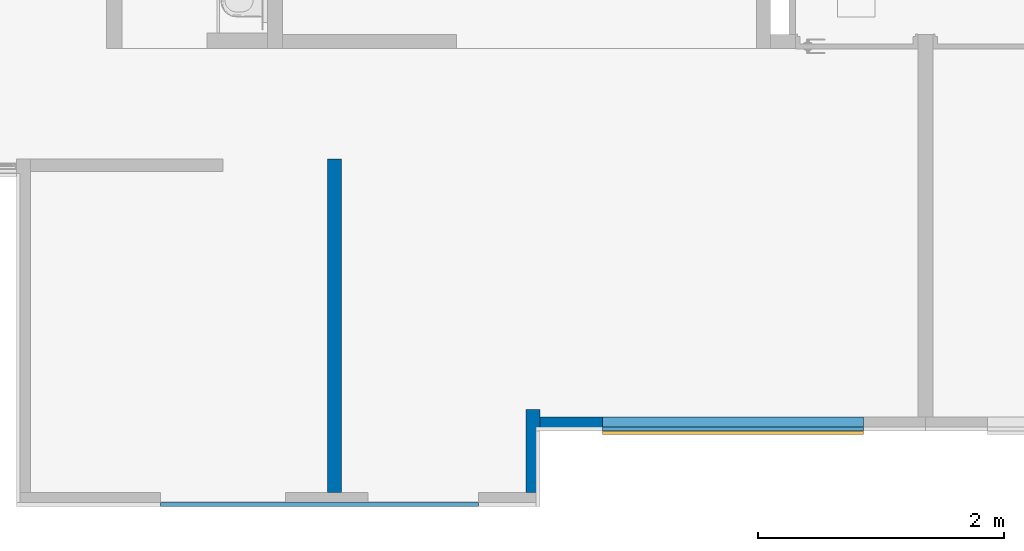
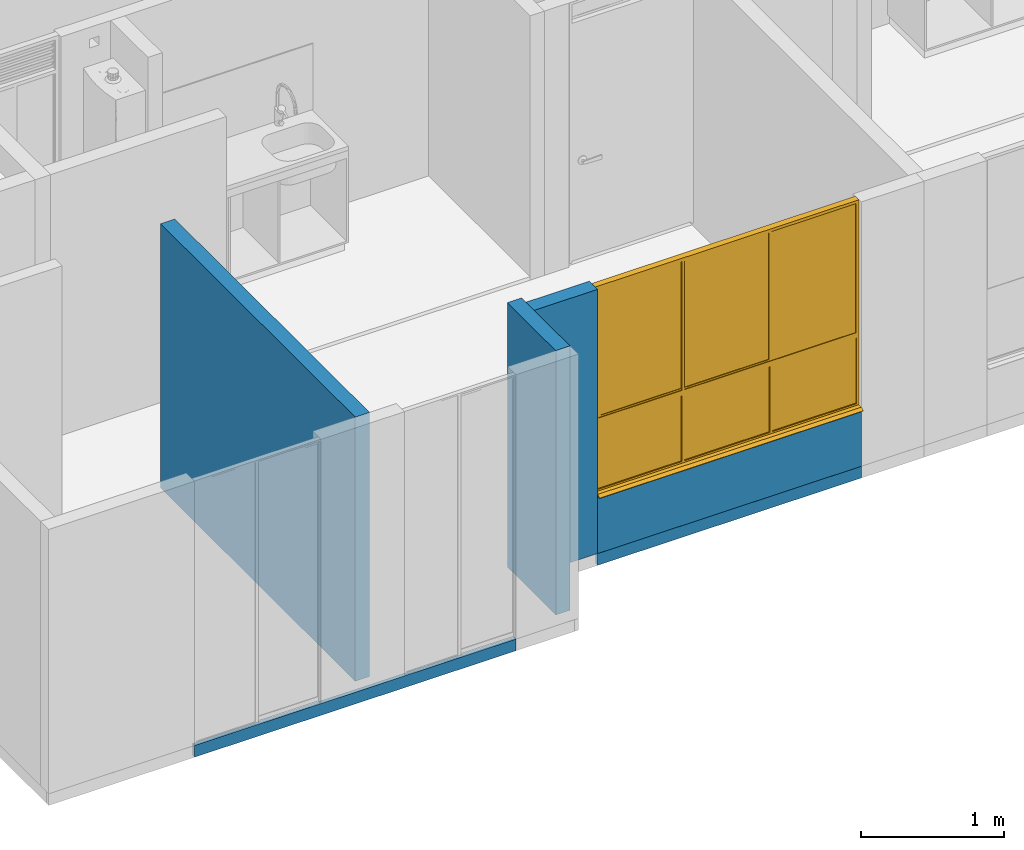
# One storey, part 6 of 48: 6 walls, 1 window, 1 opening.
"""IFC4 building model written with IfcOpenShell, lengths in metres."""

from ifc_helpers import new_model, entity, si_unit, converted_unit, derived_unit, direction, frame, origin, place, context, subcontext, project, spatial, indexed_curve, outline, extrude, polygons, source, transform, mapped, material, constituent, constituent_set, type_object, type_shapes, element, fill, save


model = new_model("IFC4")

# Units and contexts
model_context = context("Model", 3, precision=1e-05, world=origin(), true_north=direction((6.123031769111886e-17, 1.0)))
body_context = subcontext(model_context, "Body", "Model", "MODEL_VIEW")
ifc_project = project(units=[si_unit("LENGTHUNIT", "METRE"), si_unit("AREAUNIT", "SQUARE_METRE"), si_unit("VOLUMEUNIT", "CUBIC_METRE"), converted_unit("PLANEANGLEUNIT", "DEGREE", entity("IfcRatioMeasure", 0.017453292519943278), si_unit("PLANEANGLEUNIT", "RADIAN"), dimensions=[0, 0, 0, 0, 0, 0, 0]), si_unit("MASSUNIT", "GRAM", prefix="KILO"), derived_unit("MASSDENSITYUNIT", [(si_unit("MASSUNIT", "GRAM", prefix="KILO"), 1), (si_unit("LENGTHUNIT", "METRE"), -3)]), derived_unit("IONCONCENTRATIONUNIT", [(si_unit("MASSUNIT", "GRAM", prefix="KILO"), 1), (si_unit("LENGTHUNIT", "METRE"), -3)]), derived_unit("MOMENTOFINERTIAUNIT", [(si_unit("LENGTHUNIT", "METRE"), 4)]), si_unit("TIMEUNIT", "SECOND"), si_unit("FREQUENCYUNIT", "HERTZ"), si_unit("THERMODYNAMICTEMPERATUREUNIT", "DEGREE_CELSIUS"), derived_unit("THERMALTRANSMITTANCEUNIT", [(si_unit("MASSUNIT", "GRAM", prefix="KILO"), 1), (si_unit("THERMODYNAMICTEMPERATUREUNIT", "KELVIN"), -1), (si_unit("TIMEUNIT", "SECOND"), -3)]), derived_unit("THERMALCONDUCTANCEUNIT", [(si_unit("MASSUNIT", "GRAM", prefix="KILO"), 1), (si_unit("THERMODYNAMICTEMPERATUREUNIT", "KELVIN"), -1), (si_unit("TIMEUNIT", "SECOND"), -3), (si_unit("LENGTHUNIT", "METRE"), 1)]), derived_unit("VOLUMETRICFLOWRATEUNIT", [(si_unit("LENGTHUNIT", "METRE"), 3), (si_unit("TIMEUNIT", "SECOND"), -1)]), derived_unit("MASSFLOWRATEUNIT", [(si_unit("MASSUNIT", "GRAM", prefix="KILO"), 1), (si_unit("TIMEUNIT", "SECOND"), -1)]), derived_unit("ROTATIONALFREQUENCYUNIT", [(si_unit("TIMEUNIT", "SECOND"), -1)]), si_unit("ELECTRICCURRENTUNIT", "AMPERE"), si_unit("ELECTRICVOLTAGEUNIT", "VOLT"), si_unit("POWERUNIT", "WATT"), si_unit("FORCEUNIT", "NEWTON", prefix="KILO"), si_unit("ILLUMINANCEUNIT", "LUX"), si_unit("LUMINOUSFLUXUNIT", "LUMEN"), si_unit("LUMINOUSINTENSITYUNIT", "CANDELA"), derived_unit("USERDEFINED", [(si_unit("MASSUNIT", "GRAM", prefix="KILO"), -1), (si_unit("LENGTHUNIT", "METRE"), -2), (si_unit("TIMEUNIT", "SECOND"), 3), (si_unit("LUMINOUSFLUXUNIT", "LUMEN"), 1)]), derived_unit("USERDEFINED", [(si_unit("MASSUNIT", "GRAM", prefix="KILO"), 1), (si_unit("TIMEUNIT", "SECOND"), -3), (si_unit("LENGTHUNIT", "METRE"), 3), (si_unit("ELECTRICCURRENTUNIT", "AMPERE"), -2)]), derived_unit("SOUNDPOWERUNIT", [(si_unit("MASSUNIT", "GRAM", prefix="KILO"), 1), (si_unit("TIMEUNIT", "SECOND"), -3), (si_unit("LENGTHUNIT", "METRE"), 2)]), derived_unit("SOUNDPRESSUREUNIT", [(si_unit("MASSUNIT", "GRAM", prefix="KILO"), 1), (si_unit("LENGTHUNIT", "METRE"), -1), (si_unit("TIMEUNIT", "SECOND"), -2)]), derived_unit("LINEARVELOCITYUNIT", [(si_unit("LENGTHUNIT", "METRE"), 1), (si_unit("TIMEUNIT", "SECOND"), -1)]), si_unit("PRESSUREUNIT", "PASCAL"), derived_unit("USERDEFINED", [(si_unit("MASSUNIT", "GRAM", prefix="KILO"), 1), (si_unit("LENGTHUNIT", "METRE"), -2), (si_unit("TIMEUNIT", "SECOND"), -2)]), derived_unit("LINEARFORCEUNIT", [(si_unit("MASSUNIT", "GRAM", prefix="KILO"), 1), (si_unit("TIMEUNIT", "SECOND"), -2)]), derived_unit("PLANARFORCEUNIT", [(si_unit("MASSUNIT", "GRAM", prefix="KILO"), 1), (si_unit("LENGTHUNIT", "METRE"), -1), (si_unit("TIMEUNIT", "SECOND"), -2)]), derived_unit("SPECIFICHEATCAPACITYUNIT", [(si_unit("THERMODYNAMICTEMPERATUREUNIT", "KELVIN"), -1), (si_unit("LENGTHUNIT", "METRE"), 2), (si_unit("TIMEUNIT", "SECOND"), -2)]), derived_unit("HEATINGVALUEUNIT", [(si_unit("LENGTHUNIT", "METRE"), 2), (si_unit("TIMEUNIT", "SECOND"), -2)]), derived_unit("VAPORPERMEABILITYUNIT", [(si_unit("LENGTHUNIT", "METRE"), -1), (si_unit("TIMEUNIT", "SECOND"), 1)]), derived_unit("DYNAMICVISCOSITYUNIT", [(si_unit("MASSUNIT", "GRAM", prefix="KILO"), 1), (si_unit("TIMEUNIT", "SECOND"), -1), (si_unit("LENGTHUNIT", "METRE"), -1)]), derived_unit("THERMALEXPANSIONCOEFFICIENTUNIT", [(si_unit("THERMODYNAMICTEMPERATUREUNIT", "KELVIN"), -1)]), derived_unit("MODULUSOFELASTICITYUNIT", [(si_unit("MASSUNIT", "GRAM", prefix="KILO"), 1), (si_unit("LENGTHUNIT", "METRE"), -1), (si_unit("TIMEUNIT", "SECOND"), -2)]), derived_unit("ISOTHERMALMOISTURECAPACITYUNIT", [(si_unit("LENGTHUNIT", "METRE"), 3), (si_unit("MASSUNIT", "GRAM", prefix="KILO"), -1)]), derived_unit("MOISTUREDIFFUSIVITYUNIT", [(si_unit("TIMEUNIT", "SECOND"), -1), (si_unit("LENGTHUNIT", "METRE"), 2)])], contexts=[model_context])

# Site, building, storey
site_placement = place(None, origin())
site = spatial("IfcSite", under=ifc_project, at=site_placement, Name="Default", CompositionType="ELEMENT")
building_placement = place(site_placement, origin())
building = spatial("IfcBuilding", under=site, at=building_placement, CompositionType="ELEMENT")
storey_placement = place(building_placement, frame((0.0, 0.0, 9.40000000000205)))
storey = spatial("IfcBuildingStorey", under=building, at=storey_placement, Name="Nivel 5", CompositionType="ELEMENT", Elevation=9.40000000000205)

# Wall
ifc_material_1 = material(Name="Ladrillo claro (Aire)", Category="Materials")
wall_type_1 = type_object("IfcWallType", Name="Basic Wall:B2010 - 0.115m - Muro exterior en mampostería - Ladrillo", PredefinedType="STANDARD")
wall_1_placement = place(storey_placement, frame((6.124999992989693, -12.755000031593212, 0.0), z_axis=(0.0, 0.0, 1.0), x_axis=(0.0, 1.0, 0.0)))
element("IfcWall", 1, at=wall_1_placement, inside=storey, type_object=wall_type_1, material=ifc_material_1, Name="Basic Wall:B2010 - 0.115m - Muro exterior en mampostería - Ladrillo", ObjectType="Basic Wall:B2010 - 0.115m - Muro exterior en mampostería - Ladrillo", PredefinedType="NOTDEFINED", context=body_context, shape_type="SweptSolid", body=[
    extrude(outline(indexed_curve([(0.67491804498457, 0.05749999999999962), (1.1815459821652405e-16, 0.057499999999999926), (-1.1815459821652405e-16, -0.057499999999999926), (0.6749180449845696, -0.057500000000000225), (0.67491804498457, 0.05749999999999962)], self_intersect=False)), origin(), (0.0, 0.0, 1.0), 2.25000000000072),
])

# Wall, opening, window
wall_2_placement = place(storey_placement, frame((6.692499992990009, -12.197500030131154, 0.0)))
wall_2 = element("IfcWall", 2, at=wall_2_placement, inside=storey, type_object=wall_type_1, material=ifc_material_1, Name="Basic Wall:B2010 - 0.115m - Muro exterior en mampostería - Ladrillo", ObjectType="Basic Wall:B2010 - 0.115m - Muro exterior en mampostería - Ladrillo", PredefinedType="NOTDEFINED", context=body_context, shape_type="Tessellation", body=[
    polygons([(1.7081032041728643e-15, -0.057499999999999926, -1.0828671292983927e-15), (2.1249999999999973, -0.057499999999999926, -1.0828671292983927e-15), (2.1249999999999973, -0.057499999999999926, 0.5000000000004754), (1.7081032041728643e-15, -0.057499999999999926, 0.5000000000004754), (2.1249999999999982, 0.057499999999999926, -1.0828671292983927e-15), (5.438200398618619e-16, 0.057499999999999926, -1.0828671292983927e-15), (5.438200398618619e-16, 0.057499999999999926, 0.5000000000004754), (2.1249999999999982, 0.057499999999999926, 0.5000000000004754)], [[[1, 2, 3, 4]], [[5, 6, 7, 8]], [[2, 1, 6, 5]], [[2, 5, 8, 3]], [[6, 1, 4, 7]], [[4, 3, 8, 7]]], closed=True),
])
opening_placement = place(wall_2_placement, frame((2.125000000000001, 0.05749999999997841, 0.5000000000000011)))
opening = element("IfcOpeningElement", 3, at=opening_placement, cuts=wall_2, Name="B2020 - 6c Ventana corrediza - Aluminio + Vidrio:B2020 -2.13m x 1.750m - Ventana corrediza 2C - Aluminio + Vidrio:1", PredefinedType="OPENING", context=body_context, shape_type="SweptSolid", body=[
    extrude(outline(indexed_curve([(0.0, -4.087553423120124e-33), (1.7499999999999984, -4.087553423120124e-33), (1.7499999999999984, 2.125), (0.0, 2.125), (0.0, -4.087553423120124e-33)], self_intersect=False)), frame((0.0, 0.0, 0.0), z_axis=(0.0, -1.0, 0.0), x_axis=(0.0, 0.0, 1.0)), (0.0, 0.0, 1.0), 0.115),
])
ifc_material_2 = material(Name="Aluminio", Category="Materials")
ifc_constituent_1 = constituent(ifc_material_2, Name="Aluminio", Category="Materials")
ifc_material_3 = material(Name="Vidrio", Category="Materials")
ifc_constituent_2 = constituent(ifc_material_3, Name="Vidrio", Category="Materials")
ifc_material_4 = material(Name="Alfajía en aluminio", Category="Materials")
ifc_constituent_3 = constituent(ifc_material_4, Name="Alfajía en aluminio", Category="Materials")
ifc_constituent_set_1 = constituent_set(constituents=[ifc_constituent_1, ifc_constituent_2, ifc_constituent_3])
ifc_constituent_4 = constituent(ifc_material_2, Name="Aluminio", Category="Materials")
ifc_constituent_5 = constituent(ifc_material_3, Name="Vidrio", Category="Materials")
ifc_constituent_6 = constituent(ifc_material_4, Name="Alfajía en aluminio", Category="Materials")
ifc_constituent_set_2 = constituent_set(constituents=[ifc_constituent_4, ifc_constituent_5, ifc_constituent_6])
window_type = type_object("IfcWindowType", Name="B2020 - 6c Ventana corrediza - Aluminio + Vidrio:B2020 -2.13m x 1.750m - Ventana corrediza 2C - Aluminio + Vidrio", PartitioningType="NOTDEFINED", PredefinedType="WINDOW", material=ifc_constituent_set_2)
shared_shape = source(origin(), body_context, "Body", "Tessellation", [
    polygons([(0.024999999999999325, 0.03749999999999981, 1.7249999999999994), (0.025000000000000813, 0.032499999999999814, 1.7249999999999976), (0.025000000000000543, 0.032499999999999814, 0.6249999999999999), (0.024999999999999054, 0.03749999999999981, 0.6249999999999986), (2.1249999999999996, 0.03249999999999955, 0.5999999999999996), (2.1249999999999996, 0.03249999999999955, 1.749999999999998), (5.414335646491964e-16, 0.032499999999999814, 1.749999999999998), (2.707167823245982e-16, 0.032499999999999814, 0.5999999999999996), (2.099999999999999, 0.03249999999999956, 0.6249999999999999), (2.099999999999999, 0.032499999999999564, 1.7249999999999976), (2.1000000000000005, 0.03749999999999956, 0.6249999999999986), (2.1000000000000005, 0.03749999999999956, 1.7249999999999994), (2.1050000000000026, 0.03749999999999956, 0.6199999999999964), (0.01999999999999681, 0.03749999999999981, 0.6199999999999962), (0.01999999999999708, 0.03749999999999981, 1.7300000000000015), (2.1050000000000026, 0.03749999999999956, 1.7300000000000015), (0.01999999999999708, 0.05499999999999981, 1.7300000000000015), (0.01999999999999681, 0.05499999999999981, 0.6199999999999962), (2.1050000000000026, 0.05499999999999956, 0.6199999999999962), (2.1050000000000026, 0.05499999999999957, 1.7300000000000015), (2.099999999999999, 0.05499999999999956, 0.6249999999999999), (0.025000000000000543, 0.05499999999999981, 0.6249999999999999), (0.025000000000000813, 0.05499999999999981, 1.7249999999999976), (2.099999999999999, 0.05499999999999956, 1.7249999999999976), (0.025000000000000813, 0.05999999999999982, 1.7249999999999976), (0.025000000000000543, 0.05999999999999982, 0.6249999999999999), (2.099999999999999, 0.059999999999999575, 0.6249999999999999), (2.099999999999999, 0.059999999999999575, 1.7249999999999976), (2.119999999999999, 0.05999999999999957, 0.6049999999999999), (0.005000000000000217, 0.05999999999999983, 0.6049999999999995), (0.0050000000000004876, 0.05999999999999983, 1.744999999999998), (2.119999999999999, 0.05999999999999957, 1.744999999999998), (0.0050000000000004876, 0.07749999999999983, 1.744999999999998), (0.005000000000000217, 0.07749999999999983, 0.6049999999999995), (2.119999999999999, 0.07749999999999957, 0.6049999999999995), (2.119999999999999, 0.07749999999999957, 1.744999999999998), (2.099999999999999, 0.07749999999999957, 0.6249999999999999), (0.025000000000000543, 0.07749999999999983, 0.6249999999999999), (0.025000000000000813, 0.07749999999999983, 1.7249999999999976), (2.099999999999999, 0.07749999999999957, 1.7249999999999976), (0.025000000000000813, 0.08249999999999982, 1.7249999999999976), (0.025000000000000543, 0.08249999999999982, 0.6249999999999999), (2.099999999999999, 0.08249999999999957, 0.6249999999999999), (2.099999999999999, 0.08249999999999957, 1.7249999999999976), (2.1249999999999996, 0.08249999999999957, 0.5999999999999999), (2.707167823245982e-16, 0.08249999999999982, 0.5999999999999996), (5.414335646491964e-16, 0.08249999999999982, 1.749999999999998), (2.1249999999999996, 0.08249999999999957, 1.749999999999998)], [[[1, 2, 3, 4]], [[5, 6, 7, 8], [9, 3, 2, 10]], [[4, 3, 9, 11]], [[13, 14, 15, 16], [11, 12, 1, 4]], [[17, 15, 14, 18]], [[18, 14, 13, 19]], [[19, 20, 17, 18], [21, 22, 23, 24]], [[25, 23, 22, 26]], [[26, 22, 21, 27]], [[29, 30, 31, 32], [27, 28, 25, 26]], [[33, 31, 30, 34]], [[34, 30, 29, 35]], [[35, 36, 33, 34], [37, 38, 39, 40]], [[41, 39, 38, 42]], [[42, 38, 37, 43]], [[45, 46, 47, 48], [43, 44, 41, 42]], [[7, 47, 46, 8]], [[8, 46, 45, 5]], [[11, 9, 10, 12]], [[19, 13, 16, 20]], [[27, 21, 24, 28]], [[35, 29, 32, 36]], [[43, 37, 40, 44]], [[5, 45, 48, 6]], [[12, 10, 2, 1]], [[20, 16, 15, 17]], [[28, 24, 23, 25]], [[36, 32, 31, 33]], [[44, 40, 39, 41]], [[6, 48, 47, 7]]], closed=True),
    polygons([(1.4266666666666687, 0.08249999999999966, 0.6249999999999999), (1.4266666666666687, 0.05999999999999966, 0.6249999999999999), (1.406666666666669, 0.05999999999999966, 0.6249999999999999), (1.406666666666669, 0.08249999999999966, 0.6249999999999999), (1.4266666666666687, 0.08249999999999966, 1.7249999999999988), (1.4266666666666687, 0.05999999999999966, 1.7249999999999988), (1.406666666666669, 0.05999999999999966, 1.7249999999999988), (1.406666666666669, 0.08249999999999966, 1.7249999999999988)], [[[1, 2, 3, 4]], [[5, 6, 2, 1]], [[6, 7, 3, 2]], [[7, 8, 4, 3]], [[8, 5, 1, 4]], [[5, 8, 7, 6]]], closed=True),
    polygons([(0.7058333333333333, 0.06674999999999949, 1.7299999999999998), (0.7058333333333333, 0.06674999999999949, 0.6174999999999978), (2.099999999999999, 0.06674999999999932, 0.6174999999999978), (2.099999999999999, 0.06674999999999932, 1.7299999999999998), (0.7058333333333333, 0.0707499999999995, 1.7299999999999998), (0.7058333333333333, 0.0707499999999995, 0.6174999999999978), (2.099999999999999, 0.07074999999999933, 0.6174999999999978), (2.099999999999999, 0.07074999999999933, 1.7299999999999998)], [[[1, 2, 3, 4]], [[2, 1, 5, 6]], [[3, 2, 6, 7]], [[4, 3, 7, 8]], [[5, 8, 7, 6]], [[1, 4, 8, 5]]], closed=True),
    polygons([(0.7058333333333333, 0.07074999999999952, 0.6225000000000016), (0.7058333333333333, 0.06674999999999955, 0.6225000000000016), (2.095000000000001, 0.06674999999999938, 0.6225000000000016), (2.095000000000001, 0.07074999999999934, 0.6225000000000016), (2.0950000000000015, 0.06674999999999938, 1.730000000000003), (2.0950000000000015, 0.07074999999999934, 1.730000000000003), (0.7058333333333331, 0.06674999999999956, 1.730000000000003), (2.0800000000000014, 0.06674999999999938, 1.7150000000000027), (0.7208333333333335, 0.06674999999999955, 1.7150000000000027), (0.7208333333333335, 0.06674999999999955, 0.637500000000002), (2.080000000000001, 0.06674999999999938, 0.637500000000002), (2.080000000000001, 0.07074999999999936, 0.6375000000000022), (0.7208333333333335, 0.07074999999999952, 0.637500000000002), (0.7208333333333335, 0.07074999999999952, 1.7150000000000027), (2.0800000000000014, 0.07074999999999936, 1.7150000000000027), (0.7058333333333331, 0.07074999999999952, 1.730000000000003), (0.7208333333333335, 0.07549999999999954, 0.637500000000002), (2.080000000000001, 0.07549999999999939, 0.637500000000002), (2.0800000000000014, 0.07549999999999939, 1.7150000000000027), (2.1000000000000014, 0.07549999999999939, 0.6175000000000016), (0.7008333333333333, 0.07549999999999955, 0.6175000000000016), (0.7008333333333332, 0.07549999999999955, 1.735000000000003), (2.1000000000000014, 0.07549999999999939, 1.735000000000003), (0.7208333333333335, 0.07549999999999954, 1.7150000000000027), (0.7008333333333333, 0.06199999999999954, 0.6175000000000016), (2.1000000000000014, 0.061999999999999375, 0.6175000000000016), (2.1000000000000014, 0.061999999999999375, 1.735000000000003), (2.080000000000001, 0.06199999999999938, 0.6375000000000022), (0.7208333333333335, 0.06199999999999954, 0.637500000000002), (0.7208333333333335, 0.06199999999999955, 1.7150000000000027), (2.0800000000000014, 0.06199999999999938, 1.7150000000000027), (0.7008333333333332, 0.06199999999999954, 1.735000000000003)], [[[1, 2, 3, 4]], [[4, 3, 5, 6]], [[3, 2, 7, 5], [8, 9, 10, 11]], [[6, 16, 1, 4], [12, 13, 14, 15]], [[17, 13, 12, 18]], [[18, 12, 15, 19]], [[20, 21, 22, 23], [19, 24, 17, 18]], [[25, 21, 20, 26]], [[26, 20, 23, 27]], [[27, 32, 25, 26], [28, 29, 30, 31]], [[10, 29, 28, 11]], [[11, 28, 31, 8]], [[16, 7, 2, 1]], [[24, 14, 13, 17]], [[32, 22, 21, 25]], [[9, 30, 29, 10]], [[6, 5, 7, 16]], [[19, 15, 14, 24]], [[27, 23, 22, 32]], [[8, 31, 30, 9]]], closed=True),
    polygons([(0.025000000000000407, 0.04424999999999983, 1.7299999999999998), (0.025000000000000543, 0.04424999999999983, 0.6174999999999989), (0.713333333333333, 0.04424999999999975, 0.6174999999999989), (0.7133333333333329, 0.04424999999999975, 1.7299999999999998), (0.025000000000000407, 0.04824999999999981, 1.7299999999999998), (0.025000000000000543, 0.04824999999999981, 0.6174999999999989), (0.713333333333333, 0.048249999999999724, 0.6174999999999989), (0.7133333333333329, 0.048249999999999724, 1.7299999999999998)], [[[1, 2, 3, 4]], [[2, 1, 5, 6]], [[3, 2, 6, 7]], [[4, 3, 7, 8]], [[5, 8, 7, 6]], [[1, 4, 8, 5]]], closed=True),
    polygons([(0.025000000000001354, 0.04824999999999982, 0.6224999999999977), (0.025000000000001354, 0.04424999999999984, 0.6224999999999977), (0.713333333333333, 0.044249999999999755, 0.6224999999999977), (0.713333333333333, 0.04824999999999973, 0.6224999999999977), (0.713333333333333, 0.044249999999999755, 1.729999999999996), (0.713333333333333, 0.04824999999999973, 1.729999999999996), (0.025000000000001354, 0.04424999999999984, 1.729999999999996), (0.6983333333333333, 0.044249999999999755, 1.714999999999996), (0.040000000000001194, 0.04424999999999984, 1.714999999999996), (0.040000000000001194, 0.04424999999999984, 0.6374999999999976), (0.6983333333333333, 0.044249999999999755, 0.6374999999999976), (0.6983333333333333, 0.04824999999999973, 0.6374999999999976), (0.040000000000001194, 0.04824999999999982, 0.6374999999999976), (0.040000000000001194, 0.04824999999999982, 1.714999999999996), (0.6983333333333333, 0.04824999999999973, 1.714999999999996), (0.025000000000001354, 0.04824999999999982, 1.729999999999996), (0.040000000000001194, 0.052999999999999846, 0.6374999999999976), (0.6983333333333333, 0.05299999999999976, 0.6374999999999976), (0.6983333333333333, 0.05299999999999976, 1.714999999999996), (0.7183333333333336, 0.052999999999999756, 0.6174999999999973), (0.020000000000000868, 0.052999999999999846, 0.6174999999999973), (0.020000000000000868, 0.052999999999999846, 1.7349999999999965), (0.7183333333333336, 0.05299999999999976, 1.7349999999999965), (0.040000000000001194, 0.052999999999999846, 1.714999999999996), (0.020000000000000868, 0.03949999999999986, 0.6174999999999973), (0.7183333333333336, 0.03949999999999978, 0.6174999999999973), (0.7183333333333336, 0.03949999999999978, 1.7349999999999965), (0.6983333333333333, 0.039499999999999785, 0.6374999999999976), (0.040000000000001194, 0.039499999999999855, 0.6374999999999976), (0.040000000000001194, 0.039499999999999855, 1.714999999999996), (0.6983333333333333, 0.03949999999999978, 1.714999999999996), (0.020000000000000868, 0.03949999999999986, 1.7349999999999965)], [[[1, 2, 3, 4]], [[4, 3, 5, 6]], [[3, 2, 7, 5], [8, 9, 10, 11]], [[6, 16, 1, 4], [12, 13, 14, 15]], [[17, 13, 12, 18]], [[18, 12, 15, 19]], [[20, 21, 22, 23], [19, 24, 17, 18]], [[25, 21, 20, 26]], [[26, 20, 23, 27]], [[27, 32, 25, 26], [28, 29, 30, 31]], [[10, 29, 28, 11]], [[11, 28, 31, 8]], [[16, 7, 2, 1]], [[24, 14, 13, 17]], [[32, 22, 21, 25]], [[9, 30, 29, 10]], [[6, 5, 7, 16]], [[19, 15, 14, 24]], [[27, 23, 22, 32]], [[8, 31, 30, 9]]], closed=True),
    polygons([(2.1049999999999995, 0.04424999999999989, 1.7299999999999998), (0.025000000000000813, 0.04424999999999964, 1.7299999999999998), (0.025000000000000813, 0.04424999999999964, 0.6174999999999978), (2.1049999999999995, 0.04424999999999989, 0.6174999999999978), (0.025000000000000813, 0.04824999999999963, 1.7299999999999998), (0.025000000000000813, 0.04824999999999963, 0.6174999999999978), (2.1049999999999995, 0.04824999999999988, 0.6174999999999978), (2.1049999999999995, 0.04824999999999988, 1.7299999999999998)], [[[1, 2, 3, 4]], [[3, 2, 5, 6]], [[4, 3, 6, 7]], [[1, 4, 7, 8]], [[8, 7, 6, 5]], [[2, 1, 8, 5]]], closed=True),
    polygons([(0.020000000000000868, 0.06674999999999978, 1.7299999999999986), (0.020000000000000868, 0.06674999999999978, 0.6174999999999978), (2.1049999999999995, 0.06674999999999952, 0.6174999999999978), (2.104999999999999, 0.06674999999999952, 1.7299999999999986), (0.020000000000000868, 0.07074999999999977, 1.7299999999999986), (0.020000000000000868, 0.07074999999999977, 0.6174999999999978), (2.1049999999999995, 0.07074999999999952, 0.6174999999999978), (2.104999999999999, 0.07074999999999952, 1.7299999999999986)], [[[1, 2, 3, 4]], [[2, 1, 5, 6]], [[3, 2, 6, 7]], [[4, 3, 7, 8]], [[5, 8, 7, 6]], [[1, 4, 8, 5]]], closed=True),
    polygons([(0.019999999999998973, 0.06813901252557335, 0.5800000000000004), (0.01999999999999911, 0.06813901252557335, 0.019999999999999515), (2.1050000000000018, 0.06813901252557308, 0.019999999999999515), (2.1050000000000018, 0.06813901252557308, 0.5800000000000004), (0.019999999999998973, 0.07213901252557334, 0.5800000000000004), (2.1050000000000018, 0.07213901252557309, 0.5800000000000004), (2.1050000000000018, 0.07213901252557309, 0.019999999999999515), (0.01999999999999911, 0.07213901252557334, 0.019999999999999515)], [[[1, 2, 3, 4]], [[5, 6, 7, 8]], [[2, 1, 5, 8]], [[3, 2, 8, 7]], [[4, 3, 7, 6]], [[1, 4, 6, 5]]], closed=True),
    polygons([(1.4266666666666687, 0.08250000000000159, 0.5799999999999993), (1.406666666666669, 0.08250000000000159, 0.5799999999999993), (1.406666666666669, 0.03250000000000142, 0.5799999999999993), (1.4266666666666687, 0.03250000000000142, 0.5799999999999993), (1.4266666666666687, 0.08250000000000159, 0.019999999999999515), (1.4266666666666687, 0.03250000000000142, 0.019999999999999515), (1.406666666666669, 0.03250000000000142, 0.019999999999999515), (1.406666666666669, 0.08250000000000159, 0.019999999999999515)], [[[1, 2, 3, 4]], [[5, 6, 7, 8]], [[2, 1, 5, 8]], [[3, 2, 8, 7]], [[4, 3, 7, 6]], [[1, 4, 6, 5]]], closed=True),
    polygons([(4.060751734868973e-16, 0.08249999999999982, 4.060751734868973e-16), (2.707167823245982e-16, 0.08249999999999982, 0.5999999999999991), (2.1249999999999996, 0.08249999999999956, 0.5999999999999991), (2.125, 0.08249999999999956, 2.707167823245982e-16), (0.718333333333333, 0.08250000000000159, 0.5799999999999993), (0.718333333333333, 0.08250000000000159, 0.01999999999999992), (2.105, 0.0825000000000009, 0.020000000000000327), (2.105, 0.0825000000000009, 0.5799999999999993), (0.6983333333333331, 0.08250000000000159, 0.01999999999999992), (0.6983333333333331, 0.08250000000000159, 0.5799999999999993), (0.020000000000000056, 0.08250000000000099, 0.5799999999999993), (0.020000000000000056, 0.08250000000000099, 0.020000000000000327), (0.6983333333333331, 0.03250000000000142, 0.01999999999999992), (0.6983333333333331, 0.03250000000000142, 0.5799999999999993), (0.02000000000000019, 0.032499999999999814, 0.020000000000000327), (0.020000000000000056, 0.032499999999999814, 0.5799999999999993), (4.060751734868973e-16, 0.03250000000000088, 0.5999999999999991), (4.060751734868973e-16, 0.03250000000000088, 4.060751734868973e-16), (2.125, 0.0325000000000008, 4.060751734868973e-16), (2.125, 0.0325000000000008, 0.5999999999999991), (0.7183333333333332, 0.03250000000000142, 0.01999999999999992), (0.718333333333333, 0.03250000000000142, 0.5799999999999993), (2.105, 0.03249999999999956, 0.5799999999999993), (2.105, 0.03249999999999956, 0.020000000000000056)], [[[1, 2, 3, 4], [5, 6, 7, 8], [9, 10, 11, 12]], [[10, 9, 13, 14]], [[17, 18, 19, 20], [14, 13, 15, 16], [21, 22, 23, 24]], [[6, 5, 22, 21]], [[11, 16, 15, 12]], [[17, 2, 1, 18]], [[12, 15, 13, 9]], [[18, 1, 4, 19]], [[7, 24, 23, 8]], [[19, 4, 3, 20]], [[8, 23, 22, 5]], [[2, 17, 20, 3]], [[16, 11, 10, 14]], [[24, 7, 6, 21]]], closed=True),
    polygons([(0.7183333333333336, 0.07213901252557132, 0.5849999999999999), (0.7183333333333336, 0.06813901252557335, 0.5849999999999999), (2.1050000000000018, 0.06813901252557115, 0.5849999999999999), (2.1050000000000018, 0.07213901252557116, 0.5849999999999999), (0.7183333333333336, 0.07213901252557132, 0.019999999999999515), (2.1050000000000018, 0.07213901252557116, 0.019999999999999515), (2.1050000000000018, 0.06813901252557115, 0.019999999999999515), (0.7183333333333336, 0.06813901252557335, 0.019999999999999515)], [[[1, 2, 3, 4]], [[5, 6, 7, 8]], [[1, 4, 6, 5]], [[4, 3, 7, 6]], [[3, 2, 8, 7]], [[2, 1, 5, 8]]], closed=True),
    polygons([(-8.121503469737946e-16, 0.11499999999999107, -4.060751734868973e-16), (-8.121503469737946e-16, 0.08249999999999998, -4.060751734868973e-16), (-8.121503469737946e-16, 0.08249999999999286, 0.0049999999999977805), (-8.121503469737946e-16, 0.11633974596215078, 0.0049999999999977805), (-6.767919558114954e-16, 0.14348076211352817, -0.010669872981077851), (-6.767919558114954e-16, 0.1409807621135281, -0.015000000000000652), (2.124999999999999, 0.11499999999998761, -4.060751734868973e-16), (2.124999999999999, 0.14098076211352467, -0.015000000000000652), (2.124999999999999, 0.1434807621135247, -0.010669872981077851), (2.124999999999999, 0.11633974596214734, 0.0049999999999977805), (2.124999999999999, 0.0824999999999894, 0.0049999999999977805), (2.124999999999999, 0.08249999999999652, -4.060751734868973e-16)], [[[1, 2, 3, 4, 5, 6]], [[7, 8, 9, 10, 11, 12]], [[2, 1, 7, 12]], [[3, 2, 12, 11]], [[4, 3, 11, 10]], [[5, 4, 10, 9]], [[6, 5, 9, 8]], [[1, 6, 8, 7]]], closed=True),
    polygons([(0.6983333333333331, 0.07213901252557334, 0.5849999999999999), (0.01999999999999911, 0.07213901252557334, 0.5849999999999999), (0.019999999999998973, 0.06813901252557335, 0.5849999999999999), (0.6983333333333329, 0.06813901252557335, 0.5849999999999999), (0.6983333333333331, 0.07213901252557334, 0.019999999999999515), (0.6983333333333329, 0.06813901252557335, 0.019999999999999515), (0.019999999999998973, 0.06813901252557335, 0.019999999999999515), (0.01999999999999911, 0.07213901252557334, 0.019999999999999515)], [[[1, 2, 3, 4]], [[5, 6, 7, 8]], [[2, 1, 5, 8]], [[3, 2, 8, 7]], [[4, 3, 7, 6]], [[1, 4, 6, 5]]], closed=True),
])
type_shapes(window_type, [shared_shape])
window_placement = place(opening_placement, frame((0.0, 0.0, 0.0), z_axis=(0.0, 0.0, 1.0), x_axis=(-1.0, 0.0, 0.0)))
window = element("IfcWindow", 4, at=window_placement, inside=storey, type_object=window_type, material=ifc_constituent_set_1, Name="B2020 - 6c Ventana corrediza - Aluminio + Vidrio:B2020 -2.13m x 1.750m - Ventana corrediza 2C - Aluminio + Vidrio", ObjectType="B2020 - 6c Ventana corrediza - Aluminio + Vidrio:B2020 -2.13m x 1.750m - Ventana corrediza 2C - Aluminio + Vidrio", OverallHeight=1.7499999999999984, OverallWidth=2.125, PartitioningType="NOTDEFINED", PredefinedType="WINDOW", context=body_context, shape_type="MappedRepresentation", body=[
    mapped(shared_shape, transform((0.0, 0.0, 0.0), scale=1.0)),
])
fill(opening, window)

# Walls
ifc_material_5 = material(Name="LADRILLO CLARO", Category="Materials")
wall_type_2 = type_object("IfcWallType", Name="Basic Wall:B2010 - 0.115m - ME mampostería no estructural - Ladrillo", PredefinedType="STANDARD")
wall_3_placement = place(storey_placement, frame((6.182499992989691, -12.197500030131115, 0.0)))
element("IfcWall", 5, at=wall_3_placement, inside=storey, type_object=wall_type_2, material=ifc_material_5, Name="Basic Wall:B2010 - 0.115m - ME mampostería no estructural - Ladrillo", ObjectType="Basic Wall:B2010 - 0.115m - ME mampostería no estructural - Ladrillo", PredefinedType="NOTDEFINED", context=body_context, shape_type="SweptSolid", body=[
    extrude(outline(indexed_curve([(0.51000000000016, 0.05750000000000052), (-2.061268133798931e-16, 0.057499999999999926), (2.061268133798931e-16, -0.057499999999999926), (0.5100000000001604, -0.05749999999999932), (0.51000000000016, 0.05750000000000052)], self_intersect=False)), origin(), (0.0, 0.0, 1.0), 2.2500000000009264),
])
wall_type_3 = type_object("IfcWallType", Name="Basic Wall:B2010 - 0.115m - Muro interior en mampostería - Ladrillo", PredefinedType="STANDARD")
wall_4_placement = place(storey_placement, frame((4.509999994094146, -12.755000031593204, 0.0), z_axis=(0.0, 0.0, 1.0), x_axis=(0.0, 1.0, 0.0)))
element("IfcWall", 6, at=wall_4_placement, inside=storey, type_object=wall_type_3, material=ifc_material_1, Name="Basic Wall:B2010 - 0.115m - Muro interior en mampostería - Ladrillo", ObjectType="Basic Wall:B2010 - 0.115m - Muro interior en mampostería - Ladrillo", PredefinedType="NOTDEFINED", context=body_context, shape_type="SweptSolid", body=[
    extrude(outline(indexed_curve([(2.7150000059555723, 0.05749999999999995), (-8.08167206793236e-17, 0.057499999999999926), (8.08167206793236e-17, -0.057499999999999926), (2.7150000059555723, -0.0574999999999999), (2.7150000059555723, 0.05749999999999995)], self_intersect=False)), origin(), (0.0, 0.0, 1.0), 2.2499999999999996),
])
wall_type_4 = type_object("IfcWallType", Name="Basic Wall:B2010 - 0.03m - ME enchape  no estructural - Ladrillo", PredefinedType="STANDARD")
wall_5_placement = place(storey_placement, frame((5.682499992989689, -12.855000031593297, -0.10000000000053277), z_axis=(0.0, 0.0, 1.0), x_axis=(-1.0, 0.0, 0.0)))
element("IfcWall", 7, at=wall_5_placement, inside=storey, type_object=wall_type_4, material=ifc_material_5, Name="Basic Wall:B2010 - 0.03m - ME enchape  no estructural - Ladrillo", ObjectType="Basic Wall:B2010 - 0.03m - ME enchape  no estructural - Ladrillo", PredefinedType="NOTDEFINED", context=body_context, shape_type="SweptSolid", body=[
    extrude(outline(indexed_curve([(2.5899999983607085, 0.014999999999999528), (4.570130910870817e-17, 0.015000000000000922), (-4.570130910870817e-17, -0.015000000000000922), (2.5899999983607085, -0.015000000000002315), (2.5899999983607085, 0.014999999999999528)], self_intersect=False)), origin(), (0.0, 0.0, 1.0), 0.09999999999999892),
])
wall_6_placement = place(storey_placement, frame((8.817500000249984, -12.240000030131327, -0.1000000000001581), z_axis=(0.0, 0.0, 1.0), x_axis=(-1.0, 0.0, 0.0)))
element("IfcWall", 8, at=wall_6_placement, inside=storey, type_object=wall_type_4, material=ifc_material_5, Name="Basic Wall:B2010 - 0.03m - ME enchape  no estructural - Ladrillo", ObjectType="Basic Wall:B2010 - 0.03m - ME enchape  no estructural - Ladrillo", PredefinedType="NOTDEFINED", context=body_context, shape_type="SweptSolid", body=[
    extrude(outline(indexed_curve([(2.125000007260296, 0.01500000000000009), (5.1729321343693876e-17, 0.015000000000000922), (-5.1729321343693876e-17, -0.015000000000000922), (2.125000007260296, -0.015000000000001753), (2.125000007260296, 0.01500000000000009)], self_intersect=False)), origin(), (0.0, 0.0, 1.0), 0.09999999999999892),
])

save(model, "model.ifc")
